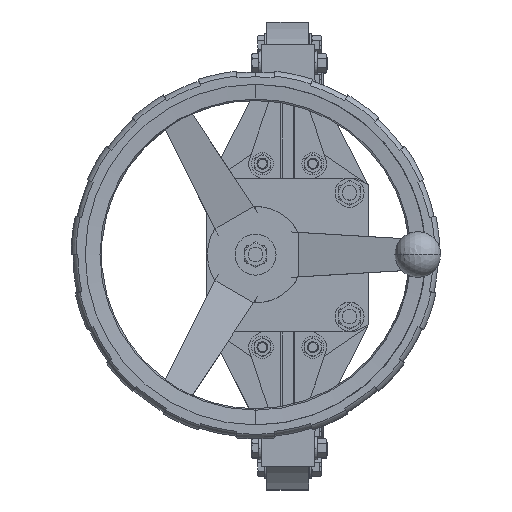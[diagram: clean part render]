
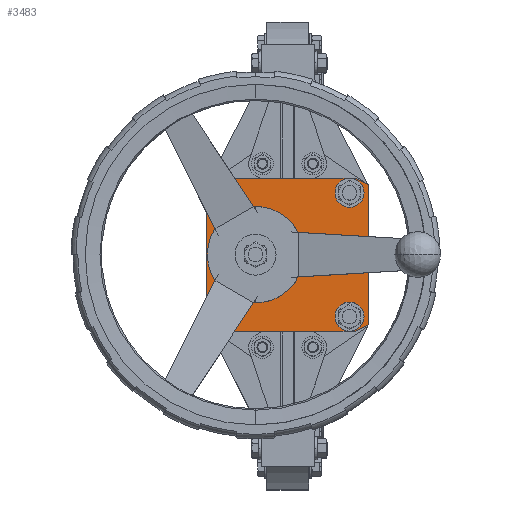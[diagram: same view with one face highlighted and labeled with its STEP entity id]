
A CAD part, top view. The second image highlights one B-rep face of the part: STEP entity #3483.
In plain terms, the highlighted planar face has unit normal (0, 0, 1).
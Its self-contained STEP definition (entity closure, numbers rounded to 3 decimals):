
#3483=ADVANCED_FACE('',(#10055,#10056,#10057,#10058,#10059,#10060),#10061,.T.);
#10055=FACE_BOUND('',#17467,.T.);
#10056=FACE_BOUND('',#17468,.T.);
#10057=FACE_OUTER_BOUND('',#17469,.T.);
#10058=FACE_BOUND('',#17470,.T.);
#10059=FACE_BOUND('',#17471,.T.);
#10060=FACE_BOUND('',#17472,.T.);
#10061=PLANE('',#17473);
#17467=EDGE_LOOP('',(#40760,#40761));
#17468=EDGE_LOOP('',(#40762,#40763));
#17469=EDGE_LOOP('',(#40764,#40765,#40766,#40767,#40768,#40769,#40770,#40771));
#17470=EDGE_LOOP('',(#40772,#40773));
#17471=EDGE_LOOP('',(#40774,#40775));
#17472=EDGE_LOOP('',(#40776,#40777));
#17473=AXIS2_PLACEMENT_3D('',#40778,#40779,#40780);
#40760=ORIENTED_EDGE('',*,*,#47693,.F.);
#40761=ORIENTED_EDGE('',*,*,#53186,.F.);
#40762=ORIENTED_EDGE('',*,*,#47585,.F.);
#40763=ORIENTED_EDGE('',*,*,#53187,.F.);
#40764=ORIENTED_EDGE('',*,*,#53168,.T.);
#40765=ORIENTED_EDGE('',*,*,#53188,.T.);
#40766=ORIENTED_EDGE('',*,*,#52898,.T.);
#40767=ORIENTED_EDGE('',*,*,#53173,.T.);
#40768=ORIENTED_EDGE('',*,*,#53189,.T.);
#40769=ORIENTED_EDGE('',*,*,#53190,.T.);
#40770=ORIENTED_EDGE('',*,*,#53191,.T.);
#40771=ORIENTED_EDGE('',*,*,#53192,.T.);
#40772=ORIENTED_EDGE('',*,*,#48285,.F.);
#40773=ORIENTED_EDGE('',*,*,#52777,.F.);
#40774=ORIENTED_EDGE('',*,*,#47451,.F.);
#40775=ORIENTED_EDGE('',*,*,#53193,.F.);
#40776=ORIENTED_EDGE('',*,*,#48353,.F.);
#40777=ORIENTED_EDGE('',*,*,#52675,.F.);
#40778=CARTESIAN_POINT('',(88.5,83.5,787.));
#40779=DIRECTION('',(0.,0.,1.));
#40780=DIRECTION('',(-1.,0.,0.));
#47451=EDGE_CURVE('',#58129,#58125,#58131,.T.);
#47585=EDGE_CURVE('',#58397,#58393,#58399,.T.);
#47693=EDGE_CURVE('',#58613,#58609,#58615,.T.);
#48285=EDGE_CURVE('',#59782,#59785,#59786,.T.);
#48353=EDGE_CURVE('',#59917,#59913,#59919,.T.);
#52675=EDGE_CURVE('',#59913,#59917,#66859,.T.);
#52777=EDGE_CURVE('',#59785,#59782,#66989,.T.);
#52898=EDGE_CURVE('',#67143,#67144,#67145,.T.);
#53168=EDGE_CURVE('',#67492,#67490,#67493,.T.);
#53173=EDGE_CURVE('',#67144,#67498,#67499,.T.);
#53186=EDGE_CURVE('',#58609,#58613,#67515,.T.);
#53187=EDGE_CURVE('',#58393,#58397,#67516,.T.);
#53188=EDGE_CURVE('',#67490,#67143,#67517,.T.);
#53189=EDGE_CURVE('',#67498,#67518,#67519,.T.);
#53190=EDGE_CURVE('',#67518,#67520,#67521,.T.);
#53191=EDGE_CURVE('',#67520,#67522,#67523,.T.);
#53192=EDGE_CURVE('',#67522,#67492,#67524,.T.);
#53193=EDGE_CURVE('',#58125,#58129,#67525,.T.);
#58125=VERTEX_POINT('',#74923);
#58129=VERTEX_POINT('',#74928);
#58131=CIRCLE('',#74931,15.845);
#58393=VERTEX_POINT('',#75301);
#58397=VERTEX_POINT('',#75306);
#58399=CIRCLE('',#75309,15.845);
#58609=VERTEX_POINT('',#75595);
#58613=VERTEX_POINT('',#75600);
#58615=CIRCLE('',#75603,15.845);
#59782=VERTEX_POINT('',#77396);
#59785=VERTEX_POINT('',#77400);
#59786=CIRCLE('',#77401,27.5);
#59913=VERTEX_POINT('',#77605);
#59917=VERTEX_POINT('',#77610);
#59919=CIRCLE('',#77613,15.845);
#66859=CIRCLE('',#91692,15.845);
#66989=CIRCLE('',#92047,27.5);
#67143=VERTEX_POINT('',#92384);
#67144=VERTEX_POINT('',#92385);
#67145=LINE('',#92386,#92387);
#67490=VERTEX_POINT('',#93035);
#67492=VERTEX_POINT('',#93038);
#67493=LINE('',#93039,#93040);
#67498=VERTEX_POINT('',#93046);
#67499=LINE('',#93047,#93048);
#67515=CIRCLE('',#93083,15.845);
#67516=CIRCLE('',#93084,15.845);
#67517=LINE('',#93085,#93086);
#67518=VERTEX_POINT('',#93087);
#67519=LINE('',#93088,#93089);
#67520=VERTEX_POINT('',#93090);
#67521=LINE('',#93091,#93092);
#67522=VERTEX_POINT('',#93093);
#67523=LINE('',#93094,#93095);
#67524=LINE('',#93096,#93097);
#67525=CIRCLE('',#93098,15.845);
#74923=CARTESIAN_POINT('',(-83.345,-67.5,787.));
#74928=CARTESIAN_POINT('',(-51.655,-67.5,787.));
#74931=AXIS2_PLACEMENT_3D('',#97939,#97940,#97941);
#75301=CARTESIAN_POINT('',(-83.345,67.5,787.));
#75306=CARTESIAN_POINT('',(-51.655,67.5,787.));
#75309=AXIS2_PLACEMENT_3D('',#98197,#98198,#98199);
#75595=CARTESIAN_POINT('',(51.655,67.5,787.));
#75600=CARTESIAN_POINT('',(83.345,67.5,787.));
#75603=AXIS2_PLACEMENT_3D('',#98407,#98408,#98409);
#77396=CARTESIAN_POINT('',(-7.5,0.,787.));
#77400=CARTESIAN_POINT('',(-62.5,0.,787.));
#77401=AXIS2_PLACEMENT_3D('',#99551,#99552,#99553);
#77605=CARTESIAN_POINT('',(51.655,-67.5,787.));
#77610=CARTESIAN_POINT('',(83.345,-67.5,787.));
#77613=AXIS2_PLACEMENT_3D('',#99669,#99670,#99671);
#91692=AXIS2_PLACEMENT_3D('',#106697,#106698,#106699);
#92047=AXIS2_PLACEMENT_3D('',#106833,#106834,#106835);
#92384=CARTESIAN_POINT('',(-88.5,76.5,787.));
#92385=CARTESIAN_POINT('',(-88.5,-76.5,787.));
#92386=CARTESIAN_POINT('',(-88.5,83.5,787.));
#92387=VECTOR('',#107035,1000.);
#93035=CARTESIAN_POINT('',(-73.5,83.5,787.));
#93038=CARTESIAN_POINT('',(73.5,83.5,787.));
#93039=CARTESIAN_POINT('',(88.5,83.5,787.));
#93040=VECTOR('',#107489,1000.);
#93046=CARTESIAN_POINT('',(-73.5,-83.5,787.));
#93047=CARTESIAN_POINT('',(-4.467,-115.715,787.));
#93048=VECTOR('',#107500,1000.);
#93083=AXIS2_PLACEMENT_3D('',#107517,#107518,#107519);
#93084=AXIS2_PLACEMENT_3D('',#107520,#107521,#107522);
#93085=CARTESIAN_POINT('',(59.529,145.58,787.));
#93086=VECTOR('',#107523,1000.);
#93087=CARTESIAN_POINT('',(73.5,-83.5,787.));
#93088=CARTESIAN_POINT('',(-88.5,-83.5,787.));
#93089=VECTOR('',#107524,1000.);
#93090=CARTESIAN_POINT('',(88.5,-76.5,787.));
#93091=CARTESIAN_POINT('',(149.814,-47.887,787.));
#93092=VECTOR('',#107525,1000.);
#93093=CARTESIAN_POINT('',(88.5,76.5,787.));
#93094=CARTESIAN_POINT('',(88.5,-83.5,787.));
#93095=VECTOR('',#107526,1000.);
#93096=CARTESIAN_POINT('',(85.818,77.752,787.));
#93097=VECTOR('',#107527,1000.);
#93098=AXIS2_PLACEMENT_3D('',#107528,#107529,#107530);
#97939=CARTESIAN_POINT('',(-67.5,-67.5,787.));
#97940=DIRECTION('',(0.,0.,1.));
#97941=DIRECTION('',(1.,0.,0.));
#98197=CARTESIAN_POINT('',(-67.5,67.5,787.));
#98198=DIRECTION('',(0.,0.,1.));
#98199=DIRECTION('',(1.,0.,0.));
#98407=CARTESIAN_POINT('',(67.5,67.5,787.));
#98408=DIRECTION('',(0.,0.,1.));
#98409=DIRECTION('',(1.,0.,0.));
#99551=CARTESIAN_POINT('',(-35.,0.,787.));
#99552=DIRECTION('',(0.,0.,1.));
#99553=DIRECTION('',(1.,0.,0.));
#99669=CARTESIAN_POINT('',(67.5,-67.5,787.));
#99670=DIRECTION('',(0.,0.,1.));
#99671=DIRECTION('',(1.,0.,0.));
#106697=CARTESIAN_POINT('',(67.5,-67.5,787.));
#106698=DIRECTION('',(0.,0.,1.));
#106699=DIRECTION('',(1.,0.,0.));
#106833=CARTESIAN_POINT('',(-35.,0.,787.));
#106834=DIRECTION('',(0.,0.,1.));
#106835=DIRECTION('',(1.,0.,0.));
#107035=DIRECTION('',(0.,-1.,0.));
#107489=DIRECTION('',(-1.,0.,0.));
#107500=DIRECTION('',(0.906,-0.423,0.));
#107517=CARTESIAN_POINT('',(67.5,67.5,787.));
#107518=DIRECTION('',(0.,0.,1.));
#107519=DIRECTION('',(1.,0.,0.));
#107520=CARTESIAN_POINT('',(-67.5,67.5,787.));
#107521=DIRECTION('',(0.,0.,1.));
#107522=DIRECTION('',(1.,0.,0.));
#107523=DIRECTION('',(-0.906,-0.423,0.));
#107524=DIRECTION('',(1.,0.,0.));
#107525=DIRECTION('',(0.906,0.423,0.));
#107526=DIRECTION('',(0.,1.,0.));
#107527=DIRECTION('',(-0.906,0.423,0.));
#107528=CARTESIAN_POINT('',(-67.5,-67.5,787.));
#107529=DIRECTION('',(0.,0.,1.));
#107530=DIRECTION('',(1.,0.,0.));
